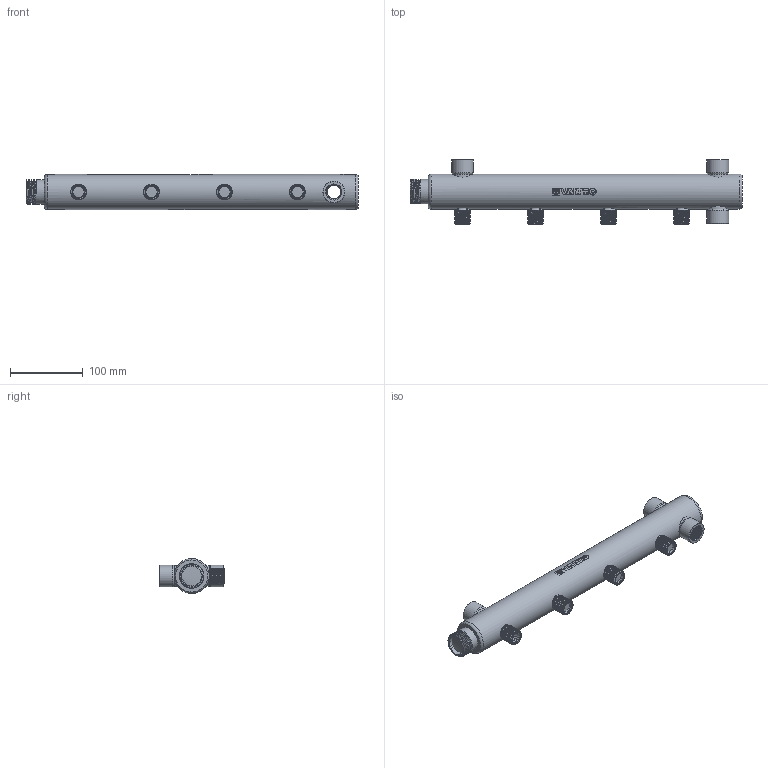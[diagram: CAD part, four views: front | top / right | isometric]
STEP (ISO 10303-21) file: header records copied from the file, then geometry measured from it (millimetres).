
FILE_DESCRIPTION(/* description */ (''),/* implementation_level */ '2;1');
FILE_NAME(/* name */ 'F:\Артём\00000\Работа удаленка\ГРВ\VTc.510.BS.060404.stp',/* time_stamp */ '2022-10-03T11:02:48+03:00',/* author */ ('almis'),/* organization */ (''),/* preprocessor_version */ 'ST-DEVELOPER v18',/* originating_system */ 'Autodesk Inventor 2020',/* authorisation */ '');
FILE_SCHEMA (('AUTOMOTIVE_DESIGN { 1 0 10303 214 3 1 1 }'));
Products named in the file (1): ГРВ-44.100
Bounding box: 455 x 89 x 48.02 mm (x, y, z)
Volume: 263183 mm3; surface area: 164511.4 mm2
Topology: 1 solids, 1 shells, 446 faces, 1210 edges, 799 vertices
Faces by surface type: cylinder 248, plane 129, bspline 42, cone 25, torus 2
Full cylindrical faces by diameter (mm): 15.7 x6, 17.7 x48, 19 x30, 19.3 x4, 21.3 x39, 22.6 x33, 27.1 x1, 28 x5, 28.9 x6, 30 x3, 33.5 x6, 41 x1, 48 x1
Entity records: 35340 total; most frequent: CARTESIAN_POINT 25044, ORIENTED_EDGE 2420, DIRECTION 1665, EDGE_CURVE 1210, VERTEX_POINT 799, AXIS2_PLACEMENT_3D 592, B_SPLINE_CURVE_WITH_KNOTS 542, EDGE_LOOP 491
